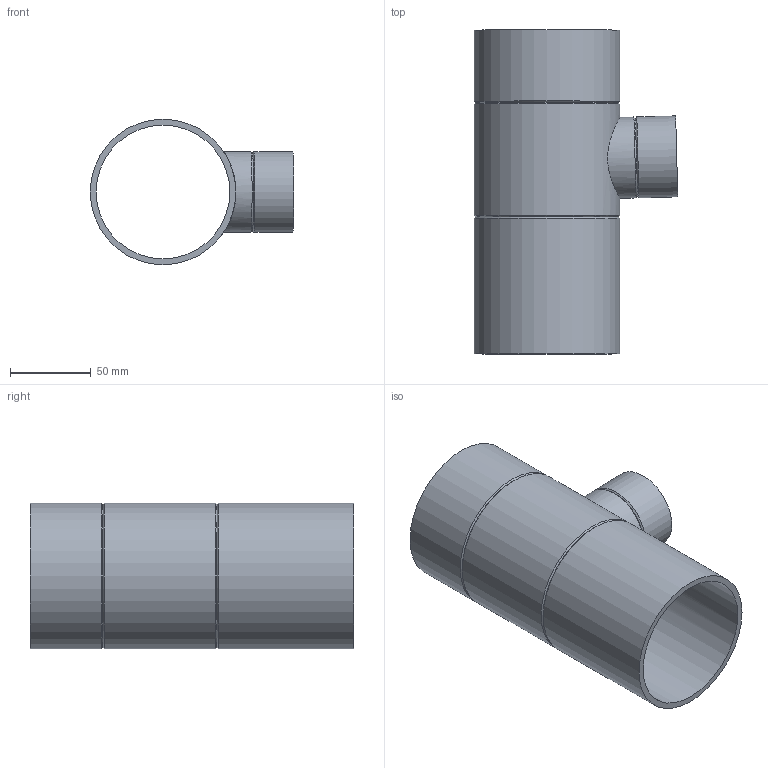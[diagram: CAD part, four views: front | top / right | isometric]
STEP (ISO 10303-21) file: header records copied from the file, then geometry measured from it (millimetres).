
FILE_DESCRIPTION(/* description */ (''),/* implementation_level */ '2;1');
FILE_NAME(/* name */ 'Z:\Geberit\Export\NewStep\366162.stp',/* time_stamp */ '2014-04-02T07:53:54+02:00',/* author */ ('nelson'),/* organization */ (''),/* preprocessor_version */ 'ST-DEVELOPER v15.2',/* originating_system */ 'Autodesk Inventor 2014',/* authorisation */ '');
FILE_SCHEMA (('AUTOMOTIVE_DESIGN { 1 0 10303 214 3 1 1 }'));
Length unit declared in the file: millimetre
Products named in the file (1): 366162
Bounding box: 126.32 x 201 x 90.38 mm (x, y, z)
Volume: 212986 mm3; surface area: 120813.3 mm2
Topology: 1 solids, 1 shells, 16 faces, 37 edges, 23 vertices
Faces by surface type: cylinder 7, cone 6, plane 3
Full cylindrical faces by diameter (mm): 43.95 x1, 50.25 x2, 83.02 x1, 90.38 x3
Entity records: 503 total; most frequent: CARTESIAN_POINT 181, DIRECTION 64, EDGE_LOOP 34, ORIENTED_EDGE 34, AXIS2_PLACEMENT_3D 32, FACE_BOUND 22, VERTEX_POINT 17, EDGE_CURVE 17
